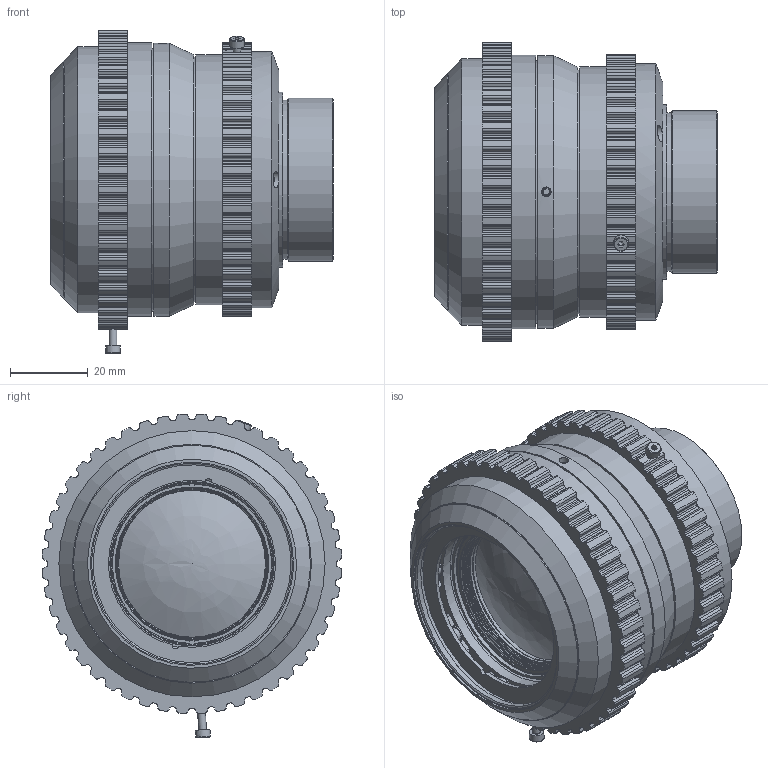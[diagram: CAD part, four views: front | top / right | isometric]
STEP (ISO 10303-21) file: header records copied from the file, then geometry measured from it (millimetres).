
FILE_DESCRIPTION(/* description */ (''),/* implementation_level */ '2;1');
FILE_NAME(/* name */ '0703-116-100-21_a-inspec.x L float 5.6_120.stp',/* time_stamp */ '2020-06-22T10:17:55+02:00',/* author */ (''),/* organization */ (''),/* preprocessor_version */ 'ST-DEVELOPER v16.7',/* originating_system */ 'SIEMENS PLM Software NX 12.0',/* authorisation */ '');
FILE_SCHEMA (('AUTOMOTIVE_DESIGN { 1 0 10303 214 3 1 1 1 }'));
Length unit declared in the file: millimetre
Products named in the file (1): marc200C57E0bdlt
Bounding box: 72.7 x 77.04 x 83.33 mm (x, y, z)
Volume: 205603.9 mm3; surface area: 36214.2 mm2
Topology: 1 solids, 23 shells, 1303 faces, 3983 edges, 2988 vertices
Faces by surface type: cylinder 712, plane 423, cone 128, torus 38, revolution 2
Full cylindrical faces by diameter (mm): 1.4 x12, 2 x12, 2.2 x10, 2.459 x2, 3.8 x9, 4.2 x3, 4.5 x7, 33.5 x1, 34 x1, 36 x1, 36.5 x2, 37.458 x1, 37.8 x2, 38.2 x1, 40.6 x1, 40.9 x1, 41 x2, 41.458 x1, 42 x2, 42.3 x2, 43.6 x1, 44.5 x1, 44.8 x1, 45 x1, 46 x1, 46.4 x1, 50.918 x1, 52.3 x2, 54 x1, 56.8 x1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
Entity records: 48588 total; most frequent: CARTESIAN_POINT 12997, DIRECTION 7671, ORIENTED_EDGE 6474, EDGE_CURVE 3237, AXIS2_PLACEMENT_3D 3078, VERTEX_POINT 2231, CIRCLE 1764, EDGE_LOOP 1584
